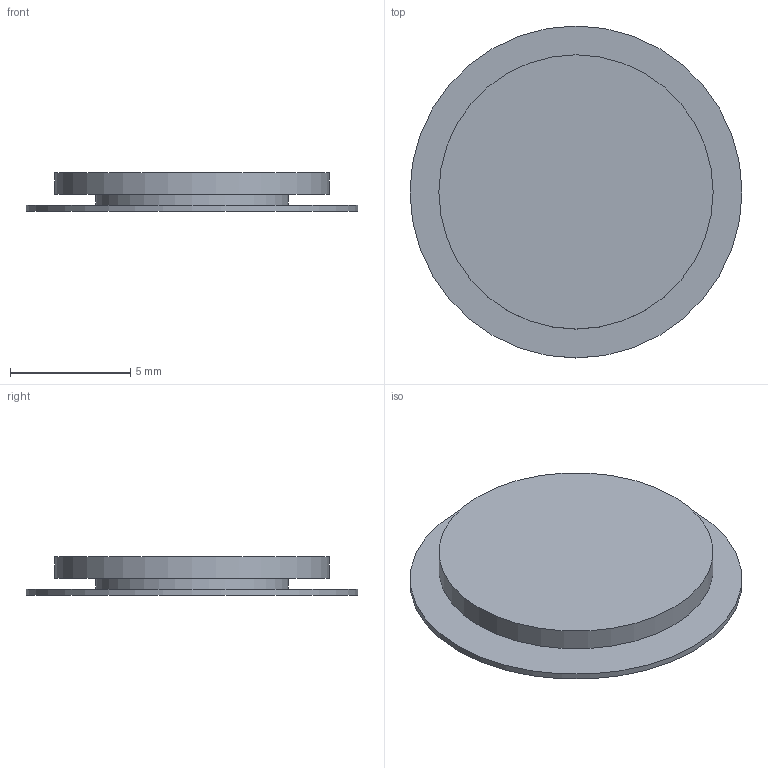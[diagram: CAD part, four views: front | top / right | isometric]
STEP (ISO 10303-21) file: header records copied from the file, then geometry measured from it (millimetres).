
FILE_DESCRIPTION(('FreeCAD Model'),'2;1');
FILE_NAME('Open CASCADE Shape Model','2026-09-21T09:26:54',('FreeCAD'),( 'FreeCAD'),'Open CASCADE STEP processor 7.8','FreeCAD','Unknown');
FILE_SCHEMA(('AUTOMOTIVE_DESIGN { 1 0 10303 214 1 1 1 1 }'));
Length unit declared in the file: millimetre
Products named in the file (1): Open CASCADE STEP translator 7.8 4
Bounding box: 13.8 x 13.8 x 1.6 mm (x, y, z)
Volume: 151.9 mm3; surface area: 457.1 mm2
Topology: 1 solids, 1 shells, 7 faces, 9 edges, 6 vertices
Faces by surface type: plane 4, cylinder 3
Full cylindrical faces by diameter (mm): 8 x1, 11.4 x1, 13.8 x1
Entity records: 159 total; most frequent: DIRECTION 31, CARTESIAN_POINT 23, ORIENTED_EDGE 18, AXIS2_PLACEMENT_3D 14, FACE_BOUND 9, EDGE_LOOP 9, EDGE_CURVE 9, ADVANCED_FACE 7
